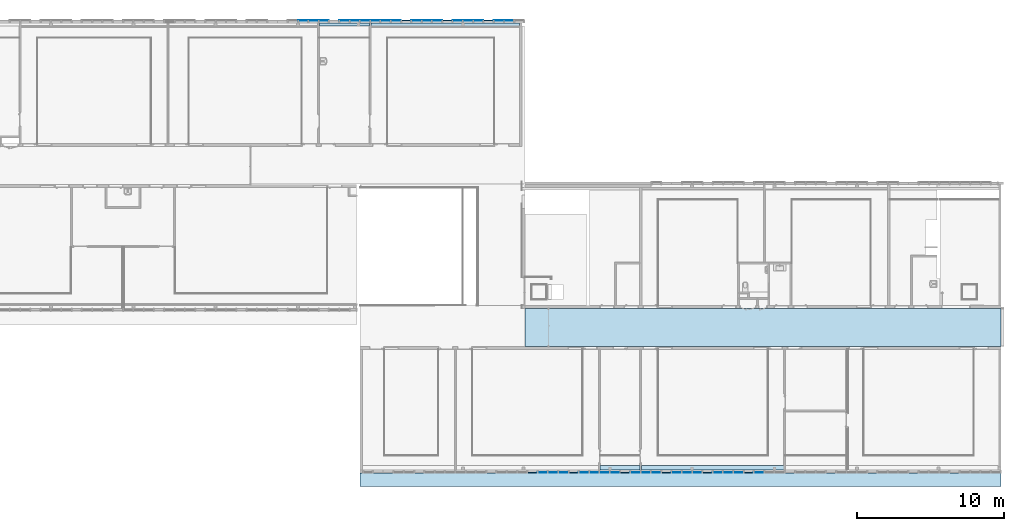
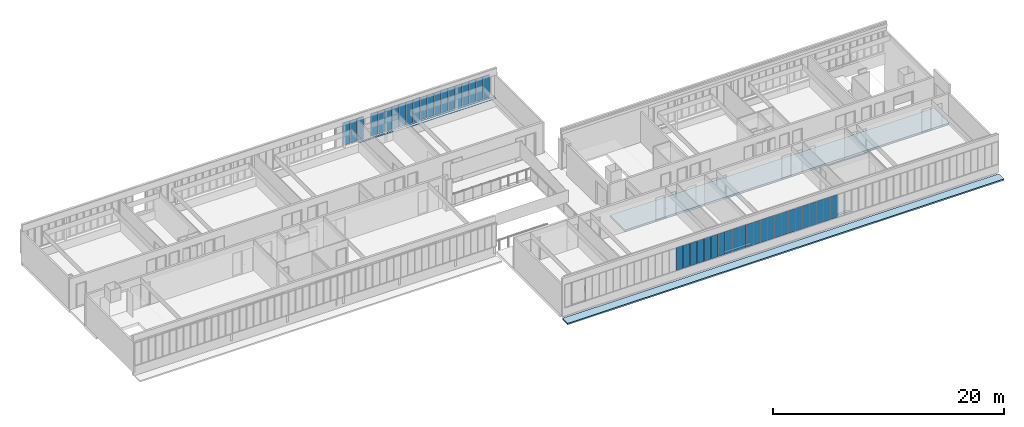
# One storey, part 23 of 87: 43 plates, 6 slabs, 2 elements without a shape of their own.
"""IFC2X3 building model written with IfcOpenShell, lengths in centimetres."""

import ifcopenshell
import ifcopenshell.guid

model = None  # the IFC model being written
_history = None  # IfcOwnerHistory: only IFC2X3 demands one
_inside = {}  # id of a spatial element -> (the spatial element, [elements in it])
_under = {}  # id of a project, library or spatial element -> (it, [spatial elements below it])
_declared = {}  # id of a project -> (the project, [libraries it declares])
_typed = {}  # id of a type object -> (the type object, [elements of that type])
_made_of = {}  # id of a material, layer set ... -> (it, [elements and type objects made of it])


def new_model(schema):
    """Start an empty IFC model of exactly this schema.

    Asked for "IFC4X3", IfcOpenShell would pick the latest addendum, in which some entities
    have other attributes; the version numbers below select the first issue.
    IFC2X3 requires an IfcOwnerHistory on every rooted entity: one is made here for all.
    """
    global model, _history
    if schema == "IFC4X3":
        model = ifcopenshell.file(schema_version=(4, 3, 0, 0))
    else:
        model = ifcopenshell.file(schema=schema)
    _inside.clear()
    _under.clear()
    _declared.clear()
    _typed.clear()
    _made_of.clear()
    _history = None
    if model.schema == "IFC2X3":
        org = make("IfcOrganization", Name="unknown")
        user = make(
            "IfcPersonAndOrganization",
            ThePerson=make("IfcPerson", FamilyName="unknown"),
            TheOrganization=org,
        )
        app = make(
            "IfcApplication",
            ApplicationDeveloper=org,
            Version="unknown",
            ApplicationFullName="unknown",
            ApplicationIdentifier="unknown",
        )
        _history = make(
            "IfcOwnerHistory",
            OwningUser=user,
            OwningApplication=app,
            ChangeAction="ADDED",
            CreationDate=0,
        )
    return model


def make(cls, **values):
    """One entity of the class cls with the attributes given. An attribute that is None is left unset."""
    return model.create_entity(
        cls, **{name: value for name, value in values.items() if value is not None}
    )


def entity(cls, *values):
    """Any entity or typed value of the class cls, its attributes in the order of the schema. None: left unset."""
    e = model.create_entity(cls)
    for i, value in enumerate(values):
        if value is not None:
            e[i] = value
    return e


def rooted(cls, **values):
    """An entity with a GlobalId (a new one), such as an element, a storey or a relation."""
    return make(cls, GlobalId=ifcopenshell.guid.new(), OwnerHistory=_history, **values)


def si_unit(unit_type, name, prefix=None):
    """IfcSIUnit, for example si_unit("LENGTHUNIT", "METRE", prefix="MILLI")."""
    return make("IfcSIUnit", UnitType=unit_type, Prefix=prefix, Name=name)


def converted_unit(unit_type, name, factor, base, dimensions=None, offset=None):
    """IfcConversionBasedUnit, such as the inch: factor (a typed value) times the base unit."""
    return make(
        "IfcConversionBasedUnit"
        if offset is None
        else "IfcConversionBasedUnitWithOffset",
        ConversionOffset=offset,
        Dimensions=None
        if dimensions is None
        else entity("IfcDimensionalExponents", *dimensions),
        UnitType=unit_type,
        Name=name,
        ConversionFactor=make(
            "IfcMeasureWithUnit", ValueComponent=factor, UnitComponent=base
        ),
    )


def derived_unit(unit_type, elements):
    """IfcDerivedUnit: a product of units, each with its exponent."""
    return make(
        "IfcDerivedUnit",
        Elements=[
            make("IfcDerivedUnitElement", Unit=unit, Exponent=power)
            for unit, power in elements
        ],
        UnitType=unit_type,
    )


def assignment(units):
    """IfcUnitAssignment: the units of a project."""
    return None if units is None else make("IfcUnitAssignment", Units=units)


def point(xyz):
    """IfcCartesianPoint."""
    return None if xyz is None else make("IfcCartesianPoint", Coordinates=xyz)


def direction(xyz):
    """IfcDirection."""
    return None if xyz is None else make("IfcDirection", DirectionRatios=xyz)


def frame(location, z_axis=None, x_axis=None):
    """IfcAxis2Placement3D, a coordinate frame: its origin and axes. An axis left out is left unset."""
    return make(
        "IfcAxis2Placement3D",
        Location=point(location),
        Axis=direction(z_axis),
        RefDirection=direction(x_axis),
    )


def frame_2d(location, x_axis=None):
    """IfcAxis2Placement2D, a coordinate frame in the plane: its origin and x axis."""
    return make(
        "IfcAxis2Placement2D", Location=point(location), RefDirection=direction(x_axis)
    )


def origin():
    """The frame at (0, 0, 0) with its axes left unset."""
    return frame((0.0, 0.0, 0.0))


def origin_2d_with_axis():
    """The frame at (0, 0) in the plane with the x axis (1, 0) written out."""
    return frame_2d((0.0, 0.0), x_axis=(1.0, 0.0))


def place(relative_to, where):
    """IfcLocalPlacement: puts the frame where relative to a parent placement (None: the world)."""
    return make(
        "IfcLocalPlacement", PlacementRelTo=relative_to, RelativePlacement=where
    )


def context(
    kind, dimensions, precision=None, world=None, true_north=None, identifier=None
):
    """IfcGeometricRepresentationContext, for example the 3D "Model" context."""
    return make(
        "IfcGeometricRepresentationContext",
        ContextIdentifier=identifier,
        ContextType=kind,
        CoordinateSpaceDimension=dimensions,
        Precision=precision,
        WorldCoordinateSystem=world,
        TrueNorth=true_north,
    )


def subcontext(parent, identifier, kind, view, scale=None):
    """IfcGeometricRepresentationSubContext, for example "Body" below "Model"."""
    return make(
        "IfcGeometricRepresentationSubContext",
        ContextIdentifier=identifier,
        ContextType=kind,
        ParentContext=parent,
        TargetScale=scale,
        TargetView=view,
    )


def project(units=None, contexts=None):
    """IfcProject with its units and contexts."""
    return rooted(
        "IfcProject",
        Name="project",
        RepresentationContexts=contexts,
        UnitsInContext=assignment(units),
    )


def spatial(cls, under=None, at=None, **own):
    """A site, building, storey or space (cls), placed at a placement, below another one or the project."""
    s = rooted(cls, ObjectPlacement=at, **own)
    if under is not None:
        _under.setdefault(under.id(), (under, []))[1].append(s)
    return s


def profile(cls, at=None, kind="AREA", **sizes):
    """A parametric profile (cls). Its sizes go by their IFC names, for example OverallWidth=200.0."""
    return make(cls, ProfileType=kind, Position=at, **sizes)


def rectangle(**sizes):
    """IfcRectangleProfileDef."""
    return profile("IfcRectangleProfileDef", **sizes)


def extrude(swept, where, along, depth):
    """IfcExtrudedAreaSolid: the profile swept, set in the frame where, extruded along a direction by depth."""
    return make(
        "IfcExtrudedAreaSolid",
        SweptArea=swept,
        Position=where,
        ExtrudedDirection=direction(along),
        Depth=depth,
    )


def faces_of(points, faces, orient=None, outer=None):
    """IfcFace entities. A face is a list of loops; a loop is a list of indices into points, from 0.

    orient and outer hold one flag for each loop. By default every Orientation is true, the
    first loop of a face is its IfcFaceOuterBound and the others are IfcFaceBound.
    """
    made = []
    for i, loops in enumerate(faces):
        bounds = []
        for j, loop in enumerate(loops):
            is_outer = j == 0 if outer is None else outer[i][j]
            bounds.append(
                make(
                    "IfcFaceOuterBound" if is_outer else "IfcFaceBound",
                    Bound=make("IfcPolyLoop", Polygon=[points[k] for k in loop]),
                    Orientation=True if orient is None else orient[i][j],
                )
            )
        made.append(make("IfcFace", Bounds=bounds))
    return made


def face_set(faces, orient=None, outer=None):
    """The faces of one IfcConnectedFaceSet. surface_model builds it on its shared points."""
    return ("IfcConnectedFaceSet", faces, orient, outer)


def faceted_brep(points, faces, orient=None, outer=None, voids=None):
    """IfcFacetedBrep: a solid bounded by flat faces; with voids (closed shells), ...WithVoids."""
    shared = [point(p) for p in points]
    hull = make("IfcClosedShell", CfsFaces=faces_of(shared, faces, orient, outer))
    if voids is None:
        return make("IfcFacetedBrep", Outer=hull)
    return make(
        "IfcFacetedBrepWithVoids",
        Outer=hull,
        Voids=[
            make(cls, CfsFaces=faces_of(shared, fs, o, b)) for cls, fs, o, b in voids
        ],
    )


def surface_model(cls, points, shells):
    """IfcFaceBasedSurfaceModel or IfcShellBasedSurfaceModel (cls): surfaces that need not close."""
    shared = [point(p) for p in points]
    made = [make(c, CfsFaces=faces_of(shared, fs, o, b)) for c, fs, o, b in shells]
    if cls == "IfcFaceBasedSurfaceModel":
        return make(cls, FbsmFaces=made)
    return make(cls, SbsmBoundary=made)


def shape(context_of_items, identifier, shape_type, items):
    """IfcShapeRepresentation: the items that make up one representation, for example the "Body"."""
    return make(
        "IfcShapeRepresentation",
        ContextOfItems=context_of_items,
        RepresentationIdentifier=identifier,
        RepresentationType=shape_type,
        Items=items,
    )


def source(mapping_origin, context_of_items, identifier, shape_type, items):
    """IfcRepresentationMap: a shape defined once, which mapped items show again and again."""
    return make(
        "IfcRepresentationMap",
        MappingOrigin=mapping_origin,
        MappedRepresentation=shape(context_of_items, identifier, shape_type, items),
    )


def transform(
    local_origin,
    x_axis=None,
    y_axis=None,
    z_axis=None,
    scale=None,
    scale2=None,
    scale3=None,
    uniform=True,
):
    """IfcCartesianTransformationOperator3D, or its non-uniform kind. x_axis, y_axis, z_axis: its Axis1, 2, 3."""
    if uniform:
        return make(
            "IfcCartesianTransformationOperator3D",
            Axis1=direction(x_axis),
            Axis2=direction(y_axis),
            LocalOrigin=point(local_origin),
            Scale=scale,
            Axis3=direction(z_axis),
        )
    return make(
        "IfcCartesianTransformationOperator3DnonUniform",
        Axis1=direction(x_axis),
        Axis2=direction(y_axis),
        LocalOrigin=point(local_origin),
        Scale=scale,
        Axis3=direction(z_axis),
        Scale2=scale2,
        Scale3=scale3,
    )


def mapped(mapping_source, mapping_target):
    """IfcMappedItem: shows the shape of a source again, moved by a transform."""
    return make(
        "IfcMappedItem", MappingSource=mapping_source, MappingTarget=mapping_target
    )


def material(Name=None, Category=None):
    """IfcMaterial."""
    return make("IfcMaterial", Name=Name, Category=Category)


def layer(
    of_material, thickness, ventilated=None, Name=None, Category=None, Priority=None
):
    """IfcMaterialLayer: one layer of a wall or slab, of a material (None: an air gap)."""
    return make(
        "IfcMaterialLayer",
        Material=of_material,
        LayerThickness=thickness,
        IsVentilated=ventilated,
        Name=Name,
        Category=Category,
        Priority=Priority,
    )


def layer_set(layers, Name=None):
    """IfcMaterialLayerSet."""
    return make("IfcMaterialLayerSet", MaterialLayers=layers, LayerSetName=Name)


def layer_usage(for_layer_set, set_direction, sense, offset, extent=None):
    """IfcMaterialLayerSetUsage: how a layer set lies in its element."""
    return make(
        "IfcMaterialLayerSetUsage",
        ForLayerSet=for_layer_set,
        LayerSetDirection=set_direction,
        DirectionSense=sense,
        OffsetFromReferenceLine=offset,
        ReferenceExtent=extent,
    )


def made_of(thing, what):
    """Note that an element or type object is made of a material, layer set ...; save() writes the relation."""
    if what is not None:
        _made_of.setdefault(what.id(), (what, []))[1].append(thing)
    return thing


def type_object(cls, material=None, **own):
    """A type object (cls), such as IfcWallType, which elements share."""
    return made_of(rooted(cls, **own), material)


def type_shapes(of_type, sources):
    """Give a type object the sources (RepresentationMaps) that its elements show as mapped items."""
    of_type.RepresentationMaps = sources


def element(
    cls,
    number,
    at=None,
    inside=None,
    cuts=None,
    type_object=None,
    material=None,
    context=None,
    identifier="Body",
    shape_type=None,
    held_by="IfcProductDefinitionShape",
    body=None,
    shapes=None,
    **own,
):
    """One element of the class cls, such as IfcWall. Its Tag is "e" and its number.

    at: its placement. inside: the storey or other place that contains it. cuts: it is an
    opening in that element (IfcRelVoidsElement). A single representation is given by context,
    identifier, shape_type and body (its items); several are given by shapes. held_by: the class
    of the entity that holds the representations. save() writes the other relations.
    """
    e = rooted(cls, Tag="e%d" % number, ObjectPlacement=at, **own)
    if body is not None:
        shapes = [shape(context, identifier, shape_type, body)]
    if shapes is not None:
        e.Representation = make(held_by, Representations=shapes)
    if inside is not None:
        _inside.setdefault(inside.id(), (inside, []))[1].append(e)
    if cuts is not None:
        rooted(
            "IfcRelVoidsElement", RelatingBuildingElement=cuts, RelatedOpeningElement=e
        )
    if type_object is not None:
        _typed.setdefault(type_object.id(), (type_object, []))[1].append(e)
    return made_of(e, material)


def aggregate(whole, parts):
    """IfcRelAggregates: a whole, such as a stair, and the parts it consists of."""
    return rooted("IfcRelAggregates", RelatingObject=whole, RelatedObjects=parts)


def save(model, path):
    """Write the relations noted so far, then the file.

    IfcRelAggregates (storeys below a building ...), IfcRelContainedInSpatialStructure (elements
    in a storey), IfcRelDefinesByType, IfcRelAssociatesMaterial and IfcRelDeclares: one each for
    every whole, place, type object, material and project.
    """
    for whole, parts in _under.values():
        aggregate(whole, parts)
    for where, things in _inside.values():
        rooted(
            "IfcRelContainedInSpatialStructure",
            RelatedElements=things,
            RelatingStructure=where,
        )
    for kind, things in _typed.values():
        rooted("IfcRelDefinesByType", RelatedObjects=things, RelatingType=kind)
    for what, things in _made_of.values():
        rooted("IfcRelAssociatesMaterial", RelatedObjects=things, RelatingMaterial=what)
    for by, libraries in _declared.values():
        rooted("IfcRelDeclares", RelatingContext=by, RelatedDefinitions=libraries)
    model.write(path)


model = new_model("IFC2X3")

# Units and contexts
model_context = context("Model", 3, precision=0.001, world=origin(), true_north=direction((6.12303176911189e-17, 1.0)))
body_context = subcontext(model_context, "Body", "Model", "MODEL_VIEW")
ifc_project = project(units=[si_unit("LENGTHUNIT", "METRE", prefix="CENTI"), si_unit("AREAUNIT", "SQUARE_METRE"), si_unit("VOLUMEUNIT", "CUBIC_METRE"), converted_unit("PLANEANGLEUNIT", "DEGREE", entity("IfcRatioMeasure", 0.0174532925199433), si_unit("PLANEANGLEUNIT", "RADIAN"), dimensions=[0, 0, 0, 0, 0, 0, 0]), si_unit("MASSUNIT", "GRAM", prefix="KILO"), derived_unit("MASSDENSITYUNIT", [(si_unit("MASSUNIT", "GRAM", prefix="KILO"), 1), (si_unit("LENGTHUNIT", "METRE"), -3)]), si_unit("TIMEUNIT", "SECOND"), si_unit("FREQUENCYUNIT", "HERTZ"), si_unit("THERMODYNAMICTEMPERATUREUNIT", "DEGREE_CELSIUS"), derived_unit("THERMALTRANSMITTANCEUNIT", [(si_unit("MASSUNIT", "GRAM", prefix="KILO"), 1), (si_unit("THERMODYNAMICTEMPERATUREUNIT", "KELVIN"), -1), (si_unit("TIMEUNIT", "SECOND"), -3)]), derived_unit("VOLUMETRICFLOWRATEUNIT", [(si_unit("LENGTHUNIT", "METRE"), 3), (si_unit("TIMEUNIT", "SECOND"), -1)]), si_unit("ELECTRICCURRENTUNIT", "AMPERE"), si_unit("ELECTRICVOLTAGEUNIT", "VOLT"), si_unit("POWERUNIT", "WATT"), si_unit("FORCEUNIT", "NEWTON", prefix="KILO"), si_unit("ILLUMINANCEUNIT", "LUX"), si_unit("LUMINOUSFLUXUNIT", "LUMEN"), si_unit("LUMINOUSINTENSITYUNIT", "CANDELA"), derived_unit("USERDEFINED", [(si_unit("MASSUNIT", "GRAM", prefix="KILO"), -1), (si_unit("LENGTHUNIT", "METRE"), -2), (si_unit("TIMEUNIT", "SECOND"), 3), (si_unit("LUMINOUSFLUXUNIT", "LUMEN"), 1)]), derived_unit("LINEARVELOCITYUNIT", [(si_unit("LENGTHUNIT", "METRE"), 1), (si_unit("TIMEUNIT", "SECOND"), -1)]), si_unit("PRESSUREUNIT", "PASCAL"), derived_unit("USERDEFINED", [(si_unit("LENGTHUNIT", "METRE"), -2), (si_unit("MASSUNIT", "GRAM", prefix="KILO"), 1), (si_unit("TIMEUNIT", "SECOND"), -2)])], contexts=[model_context])

# Site, building, storey
site_placement = place(None, frame((-2781.94577612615, 7442.24238424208, 0.0)))
site = spatial("IfcSite", under=ifc_project, at=site_placement, Name="Default", CompositionType="ELEMENT")
building_placement = place(site_placement, origin())
building = spatial("IfcBuilding", under=site, at=building_placement, CompositionType="ELEMENT")
storey_placement = place(building_placement, frame((0.0, 0.0, 774.0)))
storey = spatial("IfcBuildingStorey", under=building, at=storey_placement, Name="TR - N02 - ARCH", CompositionType="ELEMENT", Elevation=774.0)

# Curtain wall, plates
curtain_wall_type = type_object("IfcCurtainWallType", Name="Mur-rideau:07 - mur rideau trame 70cm", PredefinedType="NOTDEFINED")
curtain_wall_1_placement = place(storey_placement, frame((0.0, 0.0, -774.0)))
curtain_wall_1 = element("IfcCurtainWall", 1, at=curtain_wall_1_placement, inside=storey, type_object=curtain_wall_type, Name="Mur-rideau:07 - mur rideau trame 70cm", ObjectType="Mur-rideau:07 - mur rideau trame 70cm")
ifc_material_1 = material(Name="Verre")
ifc_layer_1 = layer(ifc_material_1, 4.0)
ifc_layer_set_1 = layer_set([ifc_layer_1], Name="Panneau système:Vitré")
ifc_layer_usage_1 = layer_usage(ifc_layer_set_1, "AXIS3", "POSITIVE", 0.0)
plate_type_1 = type_object("IfcPlateType", Name="Vitré", PredefinedType="CURTAIN_PANEL", material=ifc_layer_set_1)
shared_shape_1 = source(origin(), body_context, "Body", "SweptSolid", [
    extrude(rectangle(XDim=4.0, YDim=68.2624999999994, at=origin_2d_with_axis()), frame((0.0, 0.0, 0.0), z_axis=(0.0, 0.0, 1.0), x_axis=(0.0, 1.0, 0.0)), (0.0, 0.0, 1.0), 240.7625),
])
type_shapes(plate_type_1, [shared_shape_1])
plate_1_placement = place(curtain_wall_1_placement, frame((-3754.4998776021, 26.200000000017, 861.61875), z_axis=(0.0, 0.0, 1.0), x_axis=(-1.0, 0.0, 0.0)))
plate_1 = element("IfcPlate", 2, at=plate_1_placement, type_object=plate_type_1, material=ifc_layer_usage_1, Name="Panneau système:Vitré", ObjectType="Panneau système:Vitré", context=body_context, shape_type="MappedRepresentation", body=[
    mapped(shared_shape_1, transform((0.0, 0.0, 0.0), scale=1.0)),
])
ifc_layer_usage_2 = layer_usage(ifc_layer_set_1, "AXIS3", "POSITIVE", 0.0)
plate_2_placement = place(curtain_wall_1_placement, frame((-3824.4998776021, 26.2000000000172, 861.61875), z_axis=(0.0, 0.0, 1.0), x_axis=(-1.0, 0.0, 0.0)))
plate_2 = element("IfcPlate", 3, at=plate_2_placement, type_object=plate_type_1, material=ifc_layer_usage_2, Name="Panneau système:Vitré", ObjectType="Panneau système:Vitré", context=body_context, shape_type="MappedRepresentation", body=[
    mapped(shared_shape_1, transform((0.0, 0.0, 0.0), scale=1.0)),
])
ifc_layer_usage_3 = layer_usage(ifc_layer_set_1, "AXIS3", "POSITIVE", 0.0)
plate_3_placement = place(curtain_wall_1_placement, frame((-3964.4998776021, 26.2000000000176, 861.61875), z_axis=(0.0, 0.0, 1.0), x_axis=(-1.0, 0.0, 0.0)))
plate_3 = element("IfcPlate", 4, at=plate_3_placement, type_object=plate_type_1, material=ifc_layer_usage_3, Name="Panneau système:Vitré", ObjectType="Panneau système:Vitré", context=body_context, shape_type="MappedRepresentation", body=[
    mapped(shared_shape_1, transform((0.0, 0.0, 0.0), scale=1.0)),
])
ifc_layer_usage_4 = layer_usage(ifc_layer_set_1, "AXIS3", "POSITIVE", 0.0)
plate_4_placement = place(curtain_wall_1_placement, frame((-4034.4998776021, 26.2000000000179, 861.61875), z_axis=(0.0, 0.0, 1.0), x_axis=(-1.0, 0.0, 0.0)))
plate_4 = element("IfcPlate", 5, at=plate_4_placement, type_object=plate_type_1, material=ifc_layer_usage_4, Name="Panneau système:Vitré", ObjectType="Panneau système:Vitré", context=body_context, shape_type="MappedRepresentation", body=[
    mapped(shared_shape_1, transform((0.0, 0.0, 0.0), scale=1.0)),
])
ifc_layer_usage_5 = layer_usage(ifc_layer_set_1, "AXIS3", "POSITIVE", 0.0)
plate_5_placement = place(curtain_wall_1_placement, frame((-4104.4998776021, 26.2000000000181, 861.61875), z_axis=(0.0, 0.0, 1.0), x_axis=(-1.0, 0.0, 0.0)))
plate_5 = element("IfcPlate", 6, at=plate_5_placement, type_object=plate_type_1, material=ifc_layer_usage_5, Name="Panneau système:Vitré", ObjectType="Panneau système:Vitré", context=body_context, shape_type="MappedRepresentation", body=[
    mapped(shared_shape_1, transform((0.0, 0.0, 0.0), scale=1.0)),
])
ifc_layer_usage_6 = layer_usage(ifc_layer_set_1, "AXIS3", "POSITIVE", 0.0)
plate_6_placement = place(curtain_wall_1_placement, frame((-4244.4998776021, 26.2000000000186, 861.61875), z_axis=(0.0, 0.0, 1.0), x_axis=(-1.0, 0.0, 0.0)))
plate_6 = element("IfcPlate", 7, at=plate_6_placement, type_object=plate_type_1, material=ifc_layer_usage_6, Name="Panneau système:Vitré", ObjectType="Panneau système:Vitré", context=body_context, shape_type="MappedRepresentation", body=[
    mapped(shared_shape_1, transform((0.0, 0.0, 0.0), scale=1.0)),
])
ifc_layer_usage_7 = layer_usage(ifc_layer_set_1, "AXIS3", "POSITIVE", 0.0)
plate_7_placement = place(curtain_wall_1_placement, frame((-4314.4998776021, 26.2000000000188, 861.61875), z_axis=(0.0, 0.0, 1.0), x_axis=(-1.0, 0.0, 0.0)))
plate_7 = element("IfcPlate", 8, at=plate_7_placement, type_object=plate_type_1, material=ifc_layer_usage_7, Name="Panneau système:Vitré", ObjectType="Panneau système:Vitré", context=body_context, shape_type="MappedRepresentation", body=[
    mapped(shared_shape_1, transform((0.0, 0.0, 0.0), scale=1.0)),
])
ifc_layer_usage_8 = layer_usage(ifc_layer_set_1, "AXIS3", "POSITIVE", 0.0)
plate_8_placement = place(curtain_wall_1_placement, frame((-4384.4998776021, 26.200000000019, 861.61875), z_axis=(0.0, 0.0, 1.0), x_axis=(-1.0, 0.0, 0.0)))
plate_8 = element("IfcPlate", 9, at=plate_8_placement, type_object=plate_type_1, material=ifc_layer_usage_8, Name="Panneau système:Vitré", ObjectType="Panneau système:Vitré", context=body_context, shape_type="MappedRepresentation", body=[
    mapped(shared_shape_1, transform((0.0, 0.0, 0.0), scale=1.0)),
])
ifc_layer_usage_9 = layer_usage(ifc_layer_set_1, "AXIS3", "POSITIVE", 0.0)
plate_9_placement = place(curtain_wall_1_placement, frame((-4524.4998776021, 26.2000000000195, 861.61875), z_axis=(0.0, 0.0, 1.0), x_axis=(-1.0, 0.0, 0.0)))
plate_9 = element("IfcPlate", 10, at=plate_9_placement, type_object=plate_type_1, material=ifc_layer_usage_9, Name="Panneau système:Vitré", ObjectType="Panneau système:Vitré", context=body_context, shape_type="MappedRepresentation", body=[
    mapped(shared_shape_1, transform((0.0, 0.0, 0.0), scale=1.0)),
])
ifc_layer_usage_10 = layer_usage(ifc_layer_set_1, "AXIS3", "POSITIVE", 0.0)
plate_10_placement = place(curtain_wall_1_placement, frame((-4594.4998776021, 26.2000000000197, 861.61875), z_axis=(0.0, 0.0, 1.0), x_axis=(-1.0, 0.0, 0.0)))
plate_10 = element("IfcPlate", 11, at=plate_10_placement, type_object=plate_type_1, material=ifc_layer_usage_10, Name="Panneau système:Vitré", ObjectType="Panneau système:Vitré", context=body_context, shape_type="MappedRepresentation", body=[
    mapped(shared_shape_1, transform((0.0, 0.0, 0.0), scale=1.0)),
])
ifc_layer_usage_11 = layer_usage(ifc_layer_set_1, "AXIS3", "POSITIVE", 0.0)
plate_11_placement = place(curtain_wall_1_placement, frame((-4664.4998776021, 26.2000000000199, 861.61875), z_axis=(0.0, 0.0, 1.0), x_axis=(-1.0, 0.0, 0.0)))
plate_11 = element("IfcPlate", 12, at=plate_11_placement, type_object=plate_type_1, material=ifc_layer_usage_11, Name="Panneau système:Vitré", ObjectType="Panneau système:Vitré", context=body_context, shape_type="MappedRepresentation", body=[
    mapped(shared_shape_1, transform((0.0, 0.0, 0.0), scale=1.0)),
])
ifc_layer_usage_12 = layer_usage(ifc_layer_set_1, "AXIS3", "POSITIVE", 0.0)
plate_12_placement = place(curtain_wall_1_placement, frame((-4734.4998776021, 26.2000000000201, 861.61875), z_axis=(0.0, 0.0, 1.0), x_axis=(-1.0, 0.0, 0.0)))
plate_12 = element("IfcPlate", 13, at=plate_12_placement, type_object=plate_type_1, material=ifc_layer_usage_12, Name="Panneau système:Vitré", ObjectType="Panneau système:Vitré", context=body_context, shape_type="MappedRepresentation", body=[
    mapped(shared_shape_1, transform((0.0, 0.0, 0.0), scale=1.0)),
])
ifc_layer_usage_13 = layer_usage(ifc_layer_set_1, "AXIS3", "POSITIVE", 0.0)
plate_13_placement = place(curtain_wall_1_placement, frame((-4804.4998776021, 26.2000000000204, 861.61875), z_axis=(0.0, 0.0, 1.0), x_axis=(-1.0, 0.0, 0.0)))
plate_13 = element("IfcPlate", 14, at=plate_13_placement, type_object=plate_type_1, material=ifc_layer_usage_13, Name="Panneau système:Vitré", ObjectType="Panneau système:Vitré", context=body_context, shape_type="MappedRepresentation", body=[
    mapped(shared_shape_1, transform((0.0, 0.0, 0.0), scale=1.0)),
])
ifc_layer_usage_14 = layer_usage(ifc_layer_set_1, "AXIS3", "POSITIVE", 0.0)
plate_14_placement = place(curtain_wall_1_placement, frame((-4874.4998776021, 26.2000000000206, 861.61875), z_axis=(0.0, 0.0, 1.0), x_axis=(-1.0, 0.0, 0.0)))
plate_14 = element("IfcPlate", 15, at=plate_14_placement, type_object=plate_type_1, material=ifc_layer_usage_14, Name="Panneau système:Vitré", ObjectType="Panneau système:Vitré", context=body_context, shape_type="MappedRepresentation", body=[
    mapped(shared_shape_1, transform((0.0, 0.0, 0.0), scale=1.0)),
])
ifc_layer_usage_15 = layer_usage(ifc_layer_set_1, "AXIS3", "POSITIVE", 0.0)
plate_15_placement = place(curtain_wall_1_placement, frame((-5014.4998776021, 26.200000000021, 861.61875), z_axis=(0.0, 0.0, 1.0), x_axis=(-1.0, 0.0, 0.0)))
plate_15 = element("IfcPlate", 16, at=plate_15_placement, type_object=plate_type_1, material=ifc_layer_usage_15, Name="Panneau système:Vitré", ObjectType="Panneau système:Vitré", context=body_context, shape_type="MappedRepresentation", body=[
    mapped(shared_shape_1, transform((0.0, 0.0, 0.0), scale=1.0)),
])
ifc_layer_usage_16 = layer_usage(ifc_layer_set_1, "AXIS3", "POSITIVE", 0.0)
plate_16_placement = place(curtain_wall_1_placement, frame((-5084.4998776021, 26.2000000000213, 861.61875), z_axis=(0.0, 0.0, 1.0), x_axis=(-1.0, 0.0, 0.0)))
plate_16 = element("IfcPlate", 17, at=plate_16_placement, type_object=plate_type_1, material=ifc_layer_usage_16, Name="Panneau système:Vitré", ObjectType="Panneau système:Vitré", context=body_context, shape_type="MappedRepresentation", body=[
    mapped(shared_shape_1, transform((0.0, 0.0, 0.0), scale=1.0)),
])
ifc_layer_usage_17 = layer_usage(ifc_layer_set_1, "AXIS3", "POSITIVE", 0.0)
plate_17_placement = place(curtain_wall_1_placement, frame((-5154.4998776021, 26.2000000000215, 861.61875), z_axis=(0.0, 0.0, 1.0), x_axis=(-1.0, 0.0, 0.0)))
plate_17 = element("IfcPlate", 18, at=plate_17_placement, type_object=plate_type_1, material=ifc_layer_usage_17, Name="Panneau système:Vitré", ObjectType="Panneau système:Vitré", context=body_context, shape_type="MappedRepresentation", body=[
    mapped(shared_shape_1, transform((0.0, 0.0, 0.0), scale=1.0)),
])

curtain_wall_2_placement = place(storey_placement, frame((0.0, 0.0, -774.0)))
curtain_wall_2 = element("IfcCurtainWall", 19, at=curtain_wall_2_placement, inside=storey, type_object=curtain_wall_type, Name="Mur-rideau:07 - mur rideau trame 70cm", ObjectType="Mur-rideau:07 - mur rideau trame 70cm")
ifc_layer_usage_18 = layer_usage(ifc_layer_set_1, "AXIS3", "POSITIVE", 0.0)
plate_18_placement = place(curtain_wall_2_placement, frame((-3525.749882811, -3046.51349958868, 861.618750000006)))
plate_18 = element("IfcPlate", 20, at=plate_18_placement, type_object=plate_type_1, material=ifc_layer_usage_18, Name="Panneau système:Vitré", ObjectType="Panneau système:Vitré", context=body_context, shape_type="MappedRepresentation", body=[
    mapped(shared_shape_1, transform((0.0, 0.0, 0.0), scale=1.0)),
])
ifc_layer_usage_19 = layer_usage(ifc_layer_set_1, "AXIS3", "POSITIVE", 0.0)
plate_19_placement = place(curtain_wall_2_placement, frame((-3455.749882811, -3046.51349958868, 861.618750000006)))
plate_19 = element("IfcPlate", 21, at=plate_19_placement, type_object=plate_type_1, material=ifc_layer_usage_19, Name="Panneau système:Vitré", ObjectType="Panneau système:Vitré", context=body_context, shape_type="MappedRepresentation", body=[
    mapped(shared_shape_1, transform((0.0, 0.0, 0.0), scale=1.0)),
])
ifc_layer_usage_20 = layer_usage(ifc_layer_set_1, "AXIS3", "POSITIVE", 0.0)
plate_20_placement = place(curtain_wall_2_placement, frame((-3385.749882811, -3046.51349958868, 861.618750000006)))
plate_20 = element("IfcPlate", 22, at=plate_20_placement, type_object=plate_type_1, material=ifc_layer_usage_20, Name="Panneau système:Vitré", ObjectType="Panneau système:Vitré", context=body_context, shape_type="MappedRepresentation", body=[
    mapped(shared_shape_1, transform((0.0, 0.0, 0.0), scale=1.0)),
])
ifc_layer_usage_21 = layer_usage(ifc_layer_set_1, "AXIS3", "POSITIVE", 0.0)
plate_21_placement = place(curtain_wall_2_placement, frame((-3245.749882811, -3046.51349958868, 861.618750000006)))
plate_21 = element("IfcPlate", 23, at=plate_21_placement, type_object=plate_type_1, material=ifc_layer_usage_21, Name="Panneau système:Vitré", ObjectType="Panneau système:Vitré", context=body_context, shape_type="MappedRepresentation", body=[
    mapped(shared_shape_1, transform((0.0, 0.0, 0.0), scale=1.0)),
])
ifc_layer_usage_22 = layer_usage(ifc_layer_set_1, "AXIS3", "POSITIVE", 0.0)
plate_22_placement = place(curtain_wall_2_placement, frame((-3175.749882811, -3046.51349958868, 861.618750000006)))
plate_22 = element("IfcPlate", 24, at=plate_22_placement, type_object=plate_type_1, material=ifc_layer_usage_22, Name="Panneau système:Vitré", ObjectType="Panneau système:Vitré", context=body_context, shape_type="MappedRepresentation", body=[
    mapped(shared_shape_1, transform((0.0, 0.0, 0.0), scale=1.0)),
])
ifc_layer_usage_23 = layer_usage(ifc_layer_set_1, "AXIS3", "POSITIVE", 0.0)
plate_23_placement = place(curtain_wall_2_placement, frame((-3105.749882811, -3046.51349958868, 861.618750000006)))
plate_23 = element("IfcPlate", 25, at=plate_23_placement, type_object=plate_type_1, material=ifc_layer_usage_23, Name="Panneau système:Vitré", ObjectType="Panneau système:Vitré", context=body_context, shape_type="MappedRepresentation", body=[
    mapped(shared_shape_1, transform((0.0, 0.0, 0.0), scale=1.0)),
])
ifc_layer_usage_24 = layer_usage(ifc_layer_set_1, "AXIS3", "POSITIVE", 0.0)
plate_24_placement = place(curtain_wall_2_placement, frame((-3035.749882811, -3046.51349958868, 861.618750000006)))
plate_24 = element("IfcPlate", 26, at=plate_24_placement, type_object=plate_type_1, material=ifc_layer_usage_24, Name="Panneau système:Vitré", ObjectType="Panneau système:Vitré", context=body_context, shape_type="MappedRepresentation", body=[
    mapped(shared_shape_1, transform((0.0, 0.0, 0.0), scale=1.0)),
])
ifc_layer_usage_25 = layer_usage(ifc_layer_set_1, "AXIS3", "POSITIVE", 0.0)
plate_25_placement = place(curtain_wall_2_placement, frame((-2895.749882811, -3046.51349958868, 861.618750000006)))
plate_25 = element("IfcPlate", 27, at=plate_25_placement, type_object=plate_type_1, material=ifc_layer_usage_25, Name="Panneau système:Vitré", ObjectType="Panneau système:Vitré", context=body_context, shape_type="MappedRepresentation", body=[
    mapped(shared_shape_1, transform((0.0, 0.0, 0.0), scale=1.0)),
])
ifc_layer_usage_26 = layer_usage(ifc_layer_set_1, "AXIS3", "POSITIVE", 0.0)
plate_26_placement = place(curtain_wall_2_placement, frame((-2825.749882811, -3046.51349958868, 861.618750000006)))
plate_26 = element("IfcPlate", 28, at=plate_26_placement, type_object=plate_type_1, material=ifc_layer_usage_26, Name="Panneau système:Vitré", ObjectType="Panneau système:Vitré", context=body_context, shape_type="MappedRepresentation", body=[
    mapped(shared_shape_1, transform((0.0, 0.0, 0.0), scale=1.0)),
])
ifc_layer_usage_27 = layer_usage(ifc_layer_set_1, "AXIS3", "POSITIVE", 0.0)
plate_27_placement = place(curtain_wall_2_placement, frame((-2755.749882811, -3046.51349958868, 861.618750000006)))
plate_27 = element("IfcPlate", 29, at=plate_27_placement, type_object=plate_type_1, material=ifc_layer_usage_27, Name="Panneau système:Vitré", ObjectType="Panneau système:Vitré", context=body_context, shape_type="MappedRepresentation", body=[
    mapped(shared_shape_1, transform((0.0, 0.0, 0.0), scale=1.0)),
])
ifc_layer_usage_28 = layer_usage(ifc_layer_set_1, "AXIS3", "POSITIVE", 0.0)
plate_28_placement = place(curtain_wall_2_placement, frame((-2615.749882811, -3046.51349958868, 861.618750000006)))
plate_28 = element("IfcPlate", 30, at=plate_28_placement, type_object=plate_type_1, material=ifc_layer_usage_28, Name="Panneau système:Vitré", ObjectType="Panneau système:Vitré", context=body_context, shape_type="MappedRepresentation", body=[
    mapped(shared_shape_1, transform((0.0, 0.0, 0.0), scale=1.0)),
])
ifc_layer_usage_29 = layer_usage(ifc_layer_set_1, "AXIS3", "POSITIVE", 0.0)
plate_29_placement = place(curtain_wall_2_placement, frame((-2545.749882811, -3046.51349958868, 861.618750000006)))
plate_29 = element("IfcPlate", 31, at=plate_29_placement, type_object=plate_type_1, material=ifc_layer_usage_29, Name="Panneau système:Vitré", ObjectType="Panneau système:Vitré", context=body_context, shape_type="MappedRepresentation", body=[
    mapped(shared_shape_1, transform((0.0, 0.0, 0.0), scale=1.0)),
])
ifc_layer_usage_30 = layer_usage(ifc_layer_set_1, "AXIS3", "POSITIVE", 0.0)
plate_30_placement = place(curtain_wall_2_placement, frame((-2475.749882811, -3046.51349958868, 861.618750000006)))
plate_30 = element("IfcPlate", 32, at=plate_30_placement, type_object=plate_type_1, material=ifc_layer_usage_30, Name="Panneau système:Vitré", ObjectType="Panneau système:Vitré", context=body_context, shape_type="MappedRepresentation", body=[
    mapped(shared_shape_1, transform((0.0, 0.0, 0.0), scale=1.0)),
])
ifc_layer_usage_31 = layer_usage(ifc_layer_set_1, "AXIS3", "POSITIVE", 0.0)
plate_31_placement = place(curtain_wall_2_placement, frame((-2335.749882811, -3046.51349958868, 861.618750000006)))
plate_31 = element("IfcPlate", 33, at=plate_31_placement, type_object=plate_type_1, material=ifc_layer_usage_31, Name="Panneau système:Vitré", ObjectType="Panneau système:Vitré", context=body_context, shape_type="MappedRepresentation", body=[
    mapped(shared_shape_1, transform((0.0, 0.0, 0.0), scale=1.0)),
])
ifc_layer_usage_32 = layer_usage(ifc_layer_set_1, "AXIS3", "POSITIVE", 0.0)
plate_32_placement = place(curtain_wall_2_placement, frame((-2265.749882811, -3046.51349958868, 861.618750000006)))
plate_32 = element("IfcPlate", 34, at=plate_32_placement, type_object=plate_type_1, material=ifc_layer_usage_32, Name="Panneau système:Vitré", ObjectType="Panneau système:Vitré", context=body_context, shape_type="MappedRepresentation", body=[
    mapped(shared_shape_1, transform((0.0, 0.0, 0.0), scale=1.0)),
])
ifc_layer_usage_33 = layer_usage(ifc_layer_set_1, "AXIS3", "POSITIVE", 0.0)
plate_33_placement = place(curtain_wall_2_placement, frame((-2195.749882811, -3046.51349958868, 861.618750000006)))
plate_33 = element("IfcPlate", 35, at=plate_33_placement, type_object=plate_type_1, material=ifc_layer_usage_33, Name="Panneau système:Vitré", ObjectType="Panneau système:Vitré", context=body_context, shape_type="MappedRepresentation", body=[
    mapped(shared_shape_1, transform((0.0, 0.0, 0.0), scale=1.0)),
])
ifc_layer_usage_34 = layer_usage(ifc_layer_set_1, "AXIS3", "POSITIVE", 0.0)
plate_34_placement = place(curtain_wall_2_placement, frame((-2055.749882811, -3046.51349958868, 861.618750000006)))
plate_34 = element("IfcPlate", 36, at=plate_34_placement, type_object=plate_type_1, material=ifc_layer_usage_34, Name="Panneau système:Vitré", ObjectType="Panneau système:Vitré", context=body_context, shape_type="MappedRepresentation", body=[
    mapped(shared_shape_1, transform((0.0, 0.0, 0.0), scale=1.0)),
])

# Plate
plate_type_2 = type_object("IfcPlateType", Name="Vitré", PredefinedType="CURTAIN_PANEL", material=ifc_layer_set_1)
shared_shape_2 = source(origin(), body_context, "Body", "Brep", [
    faceted_brep([(-34.13125, -2.0, 1.73749999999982), (34.1312499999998, -2.0, 1.73749999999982), (34.1312499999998, -2.0, 242.5), (-34.1312499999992, -2.0, 242.5), (33.9687499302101, -2.0, 0.0), (33.9687499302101, -2.0, 244.2375), (-34.03125006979, -2.0, 244.2375), (-34.03125006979, -2.0, 0.0), (-34.13125, 2.0, 1.73749999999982), (-34.1312499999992, 2.0, 242.5), (34.1312499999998, 2.0, 242.5), (34.1312499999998, 2.0, 1.73749999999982), (33.9687499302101, 2.0, 0.0), (-34.03125006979, 2.0, 0.0), (-34.03125006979, 2.0, 244.2375), (33.9687499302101, 2.0, 244.2375)], [[[0, 1, 2, 3]], [[4, 5, 6, 7]], [[8, 9, 10, 11]], [[12, 13, 14, 15]], [[1, 0, 8, 11]], [[2, 1, 11, 10]], [[3, 2, 10, 9]], [[0, 3, 9, 8]], [[7, 13, 12, 4]], [[6, 14, 13, 7]], [[5, 15, 14, 6]], [[4, 12, 15, 5]]]),
])
type_shapes(plate_type_2, [shared_shape_2])
plate_35_placement = place(curtain_wall_1_placement, frame((-3894.4998776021, 26.2000000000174, 859.88125), z_axis=(0.0, 0.0, 1.0), x_axis=(-1.0, 0.0, 0.0)))
plate_35 = element("IfcPlate", 37, at=plate_35_placement, type_object=plate_type_2, Name="Panneau système:Vitré", ObjectType="Panneau système:Vitré", context=body_context, shape_type="MappedRepresentation", body=[
    mapped(shared_shape_2, transform((0.0, 0.0, 0.0), scale=1.0)),
])

plate_36_placement = place(curtain_wall_1_placement, frame((-4174.4998776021, 26.2000000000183, 859.88125), z_axis=(0.0, 0.0, 1.0), x_axis=(-1.0, 0.0, 0.0)))
plate_36 = element("IfcPlate", 38, at=plate_36_placement, type_object=plate_type_2, Name="Panneau système:Vitré", ObjectType="Panneau système:Vitré", context=body_context, shape_type="MappedRepresentation", body=[
    mapped(shared_shape_2, transform((0.0, 0.0, 0.0), scale=1.0)),
])

plate_37_placement = place(curtain_wall_1_placement, frame((-4454.4998776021, 26.2000000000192, 859.88125), z_axis=(0.0, 0.0, 1.0), x_axis=(-1.0, 0.0, 0.0)))
plate_37 = element("IfcPlate", 39, at=plate_37_placement, type_object=plate_type_2, Name="Panneau système:Vitré", ObjectType="Panneau système:Vitré", context=body_context, shape_type="MappedRepresentation", body=[
    mapped(shared_shape_2, transform((0.0, 0.0, 0.0), scale=1.0)),
])

aggregate(curtain_wall_1, [plate_1, plate_2, plate_35, plate_3, plate_4, plate_5, plate_36, plate_6, plate_7, plate_8, plate_37, plate_9, plate_10, plate_11, plate_12, plate_13, plate_14, plate_15, plate_16, plate_17])

plate_type_3 = type_object("IfcPlateType", Name="Vitré", PredefinedType="CURTAIN_PANEL", material=ifc_layer_set_1)
shared_shape_3 = source(origin(), body_context, "Body", "SurfaceModel", [
    surface_model("IfcFaceBasedSurfaceModel", [(33.8093776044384, -2.0, 0.0), (33.8093776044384, -2.0, 244.2375), (-34.1906223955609, -2.0, 244.2375), (-34.1906223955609, -2.0, 0.0), (-34.0718776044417, -2.0, 1.73749999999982), (-34.0718776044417, -2.0, 242.5), (34.1906223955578, -2.0, 242.5), (34.1906223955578, -2.0, 1.73749999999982), (-34.0718776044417, 2.0, 1.73749999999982), (34.1906223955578, 2.0, 1.73749999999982), (34.1906223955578, 2.0, 242.5), (-34.0718776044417, 2.0, 242.5), (-34.1906223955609, 2.0, 0.0), (33.8093776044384, 2.0, 0.0), (-34.1906223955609, 2.0, 244.2375), (33.8093776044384, 2.0, 244.2375)], [face_set([[[0, 1, 2, 3], [4, 5, 6, 7]], [[7, 4, 8, 9]], [[6, 7, 9, 10]], [[5, 6, 10, 11]], [[4, 5, 11, 8]], [[3, 12, 13, 0]], [[2, 14, 12, 3]], [[1, 15, 14, 2]], [[0, 13, 15, 1]]])]),
])
type_shapes(plate_type_3, [shared_shape_3])
plate_38_placement = place(curtain_wall_2_placement, frame((-3595.80925520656, -3046.51349958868, 859.88125)))
plate_38 = element("IfcPlate", 40, at=plate_38_placement, type_object=plate_type_3, Name="Panneau système:Vitré", ObjectType="Panneau système:Vitré", context=body_context, shape_type="MappedRepresentation", body=[
    mapped(shared_shape_3, transform((0.0, 0.0, 0.0), scale=1.0)),
])

plate_39_placement = place(curtain_wall_2_placement, frame((-3315.80925520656, -3046.51349958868, 859.88125)))
plate_39 = element("IfcPlate", 41, at=plate_39_placement, type_object=plate_type_3, Name="Panneau système:Vitré", ObjectType="Panneau système:Vitré", context=body_context, shape_type="MappedRepresentation", body=[
    mapped(shared_shape_3, transform((0.0, 0.0, 0.0), scale=1.0)),
])

plate_40_placement = place(curtain_wall_2_placement, frame((-2965.80925520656, -3046.51349958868, 859.88125)))
plate_40 = element("IfcPlate", 42, at=plate_40_placement, type_object=plate_type_3, Name="Panneau système:Vitré", ObjectType="Panneau système:Vitré", context=body_context, shape_type="MappedRepresentation", body=[
    mapped(shared_shape_3, transform((0.0, 0.0, 0.0), scale=1.0)),
])

plate_41_placement = place(curtain_wall_2_placement, frame((-2685.80925520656, -3046.51349958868, 859.88125)))
plate_41 = element("IfcPlate", 43, at=plate_41_placement, type_object=plate_type_3, Name="Panneau système:Vitré", ObjectType="Panneau système:Vitré", context=body_context, shape_type="MappedRepresentation", body=[
    mapped(shared_shape_3, transform((0.0, 0.0, 0.0), scale=1.0)),
])

plate_42_placement = place(curtain_wall_2_placement, frame((-2405.80925520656, -3046.51349958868, 859.88125)))
plate_42 = element("IfcPlate", 44, at=plate_42_placement, type_object=plate_type_3, Name="Panneau système:Vitré", ObjectType="Panneau système:Vitré", context=body_context, shape_type="MappedRepresentation", body=[
    mapped(shared_shape_3, transform((0.0, 0.0, 0.0), scale=1.0)),
])

plate_43_placement = place(curtain_wall_2_placement, frame((-2125.80925520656, -3046.51349958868, 859.88125)))
plate_43 = element("IfcPlate", 45, at=plate_43_placement, type_object=plate_type_3, Name="Panneau système:Vitré", ObjectType="Panneau système:Vitré", context=body_context, shape_type="MappedRepresentation", body=[
    mapped(shared_shape_3, transform((0.0, 0.0, 0.0), scale=1.0)),
])

aggregate(curtain_wall_2, [plate_38, plate_18, plate_19, plate_20, plate_39, plate_21, plate_22, plate_23, plate_24, plate_40, plate_25, plate_26, plate_27, plate_41, plate_28, plate_29, plate_30, plate_42, plate_31, plate_32, plate_33, plate_43, plate_34])

# Slabs
ifc_material_2 = material(Name="Metal - Steel - ASTM A36")
ifc_layer_2 = layer(ifc_material_2, 15.0)
ifc_layer_set_2 = layer_set([ifc_layer_2], Name="Sol:02 - Dalle épine")
ifc_layer_usage_35 = layer_usage(ifc_layer_set_2, "AXIS3", "POSITIVE", 0.0)
slab_type_1 = type_object("IfcSlabType", Name="Sol:02 - Dalle épine", PredefinedType="FLOOR", material=ifc_layer_set_2)
slab_1_placement = place(storey_placement, origin())
element("IfcSlab", 46, at=slab_1_placement, inside=storey, type_object=slab_type_1, material=ifc_layer_usage_35, Name="Sol:02 - Dalle épine", ObjectType="Sol:02 - Dalle épine", PredefinedType="FLOOR", context=body_context, shape_type="SweptSolid", body=[
    extrude(rectangle(XDim=90.0000000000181, YDim=4357.99999476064, at=frame_2d((-2.16715534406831e-13, -4.54747350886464e-13), x_axis=(1.0, 0.0))), frame((-2588.9998802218, -3095.31349958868, -16.0), z_axis=(0.0, 0.0, -1.0), x_axis=(0.0, 1.0, 0.0)), (0.0, 0.0, 1.0), 14.9999999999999),
])
ifc_material_3 = material(Name="Béton, coulé sur place")
ifc_layer_3 = layer(ifc_material_3, 1.0)
ifc_material_4 = material(Name="01 - Maçonnerie")
ifc_layer_4 = layer(ifc_material_4, 20.0)
ifc_layer_set_3 = layer_set([ifc_layer_3, ifc_layer_4], Name="Sol:02 - dalle béton 20cm + finition 1cm")
ifc_layer_usage_36 = layer_usage(ifc_layer_set_3, "AXIS3", "POSITIVE", 0.0)
slab_type_2 = type_object("IfcSlabType", Name="Sol:02 - dalle béton 20cm + finition 1cm", PredefinedType="FLOOR")
slab_2_placement = place(storey_placement, frame((-8409.49987766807, -2190.15656731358, -21.0)))
element("IfcSlab", 47, at=slab_2_placement, inside=storey, type_object=slab_type_2, material=ifc_layer_usage_36, Name="Sol:02 - dalle béton 20cm + finition 1cm:2", ObjectType="Sol:02 - dalle béton 20cm + finition 1cm", PredefinedType="FLOOR", context=body_context, shape_type="SweptSolid", body=[
    extrude(rectangle(XDim=260.077533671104, YDim=3237.99999684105, at=frame_2d((-2380.74999899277, -550.015266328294), x_axis=(0.0, -1.0))), frame((3999.74999741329, 680.054033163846, 21.0), z_axis=(0.0, 0.0, -1.0), x_axis=(-1.0, 0.0, 0.0)), (0.0, 0.0, 1.0), 21.0),
])
ifc_material_5 = material(Name="Bois tablettes")
ifc_layer_5 = layer(ifc_material_5, 2.0)
ifc_layer_set_4 = layer_set([ifc_layer_5], Name="Sol:02 - Tablette bois 2cm")
ifc_layer_usage_37 = layer_usage(ifc_layer_set_4, "AXIS3", "POSITIVE", 0.0)
slab_type_3 = type_object("IfcSlabType", Name="Sol:02 - Tablette bois 2cm", PredefinedType="FLOOR")
slab_3_placement = place(storey_placement, frame((-7966.49987760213, -3031.21349958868, 88.0)))
element("IfcSlab", 48, at=slab_3_placement, inside=storey, type_object=slab_type_3, material=ifc_layer_usage_37, Name="Sol:02 - Tablette bois 2cm:3", ObjectType="Sol:02 - Tablette bois 2cm", PredefinedType="FLOOR", context=body_context, shape_type="SweptSolid", body=[
    extrude(rectangle(XDim=30.9000000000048, YDim=271.800000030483, at=frame_2d((-1198.34999739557, -551.117232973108), x_axis=(0.0, -1.0))), frame((3768.24999738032, 566.567232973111, 2.0), z_axis=(0.0, 0.0, -1.0), x_axis=(-1.0, 0.0, 0.0)), (0.0, 0.0, 1.0), 1.99999999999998),
])
slab_type_4 = type_object("IfcSlabType", Name="Sol:02 - Tablette bois 2cm", PredefinedType="FLOOR")
slab_4_placement = place(storey_placement, frame((-7966.49987760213, -3031.21349958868, 88.0)))
element("IfcSlab", 49, at=slab_4_placement, inside=storey, type_object=slab_type_4, material=ifc_layer_usage_37, Name="Sol:02 - Tablette bois 2cm:4", ObjectType="Sol:02 - Tablette bois 2cm", PredefinedType="FLOOR", context=body_context, shape_type="SweptSolid", body=[
    extrude(rectangle(XDim=30.0000000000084, YDim=971.800000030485, at=frame_2d((-1828.34999739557, -550.667232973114), x_axis=(0.0, -1.0))), frame((3768.24999738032, 566.567232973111, 2.0), z_axis=(0.0, 0.0, -1.0), x_axis=(-1.0, 0.0, 0.0)), (0.0, 0.0, 1.0), 1.99999999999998),
])
ifc_layer_usage_38 = layer_usage(ifc_layer_set_4, "AXIS3", "POSITIVE", 0.0)
slab_type_5 = type_object("IfcSlabType", Name="Sol:02 - Tablette bois 2cm", PredefinedType="FLOOR")
slab_5_placement = place(storey_placement, frame((-8394.19987766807, -1120.0, 88.0)))
element("IfcSlab", 50, at=slab_5_placement, inside=storey, type_object=slab_type_5, material=ifc_layer_usage_38, Name="Sol:02 - Tablette bois 2cm", ObjectType="Sol:02 - Tablette bois 2cm", PredefinedType="FLOOR", context=body_context, shape_type="SweptSolid", body=[
    extrude(rectangle(XDim=1011.19999791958, YDim=31.9999999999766, at=frame_2d((-430.85000161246, 549.0), x_axis=(-1.0, 0.0))), frame((3774.44999741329, 565.0, 2.0), z_axis=(0.0, 0.0, -1.0), x_axis=(-1.0, 0.0, 0.0)), (0.0, 0.0, 1.0), 1.99999999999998),
])
slab_type_6 = type_object("IfcSlabType", Name="Sol:02 - Tablette bois 2cm", PredefinedType="FLOOR")
slab_6_placement = place(storey_placement, frame((-8394.19987766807, -1120.0, 88.0)))
element("IfcSlab", 51, at=slab_6_placement, inside=storey, type_object=slab_type_6, material=ifc_layer_usage_38, Name="Sol:02 - Tablette bois 2cm:2", ObjectType="Sol:02 - Tablette bois 2cm", PredefinedType="FLOOR", context=body_context, shape_type="SweptSolid", body=[
    extrude(rectangle(XDim=20.0000000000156, YDim=340.000000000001, at=frame_2d((254.749997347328, 555.0), x_axis=(0.0, 1.0))), frame((3774.44999741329, 565.0, 2.0), z_axis=(0.0, 0.0, -1.0), x_axis=(-1.0, 0.0, 0.0)), (0.0, 0.0, 1.0), 1.99999999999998),
])

save(model, "model.ifc")
